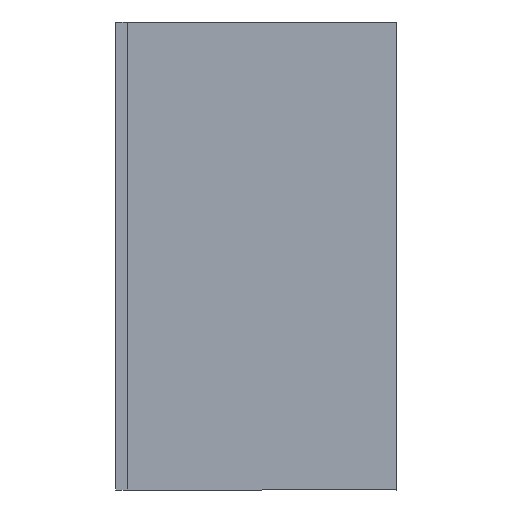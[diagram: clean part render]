
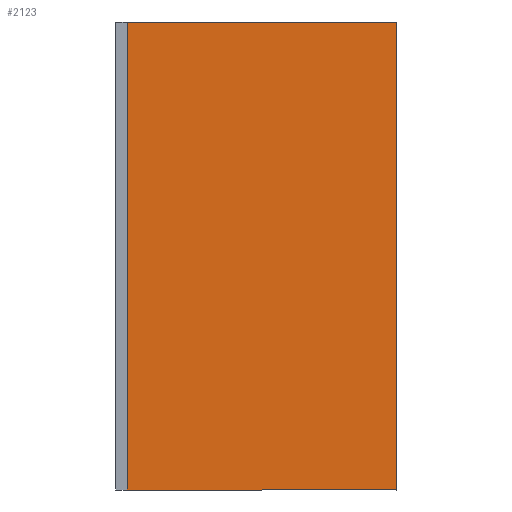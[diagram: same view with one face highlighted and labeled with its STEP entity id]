
A CAD part, front view. The second image highlights one B-rep face of the part: STEP entity #2123.
In plain terms, the highlighted planar face has unit normal (0, -1, 0) as drawn and (0, 0, -1) by its records, which use the part's own axes.
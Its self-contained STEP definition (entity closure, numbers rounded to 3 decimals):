
#281=FACE_OUTER_BOUND('',#441,.T.);
#441=EDGE_LOOP('',(#1897,#1898,#1899,#1900));
#665=LINE('',#3569,#899);
#669=LINE('',#3577,#903);
#672=LINE('',#3583,#906);
#675=LINE('',#3588,#909);
#899=VECTOR('',#2972,10.);
#903=VECTOR('',#2978,10.);
#906=VECTOR('',#2983,10.);
#909=VECTOR('',#2988,10.);
#1087=VERTEX_POINT('',#3567);
#1088=VERTEX_POINT('',#3568);
#1091=VERTEX_POINT('',#3576);
#1093=VERTEX_POINT('',#3582);
#1353=EDGE_CURVE('',#1087,#1088,#665,.T.);
#1357=EDGE_CURVE('',#1088,#1091,#669,.T.);
#1360=EDGE_CURVE('',#1091,#1093,#672,.T.);
#1363=EDGE_CURVE('',#1093,#1087,#675,.T.);
#1897=ORIENTED_EDGE('',*,*,#1363,.T.);
#1898=ORIENTED_EDGE('',*,*,#1353,.T.);
#1899=ORIENTED_EDGE('',*,*,#1357,.T.);
#1900=ORIENTED_EDGE('',*,*,#1360,.T.);
#2003=PLANE('',#2422);
#2123=ADVANCED_FACE('',(#281),#2003,.F.);
#2422=AXIS2_PLACEMENT_3D('',#3590,#2990,#2991);
#2972=DIRECTION('',(0.,-1.,0.));
#2978=DIRECTION('',(-1.,0.,0.));
#2983=DIRECTION('',(0.,1.,0.));
#2988=DIRECTION('',(1.,0.,0.));
#2990=DIRECTION('center_axis',(0.,0.,1.));
#2991=DIRECTION('ref_axis',(1.,0.,0.));
#3567=CARTESIAN_POINT('',(3500.,100.,0.));
#3568=CARTESIAN_POINT('',(3500.,-2200.,0.));
#3569=CARTESIAN_POINT('',(3500.,100.,0.));
#3576=CARTESIAN_POINT('',(-500.,-2200.,0.));
#3577=CARTESIAN_POINT('',(3500.,-2200.,0.));
#3582=CARTESIAN_POINT('',(-500.,100.,0.));
#3583=CARTESIAN_POINT('',(-500.,-2200.,0.));
#3588=CARTESIAN_POINT('',(-500.,100.,0.));
#3590=CARTESIAN_POINT('Origin',(1500.,-1050.,0.));
